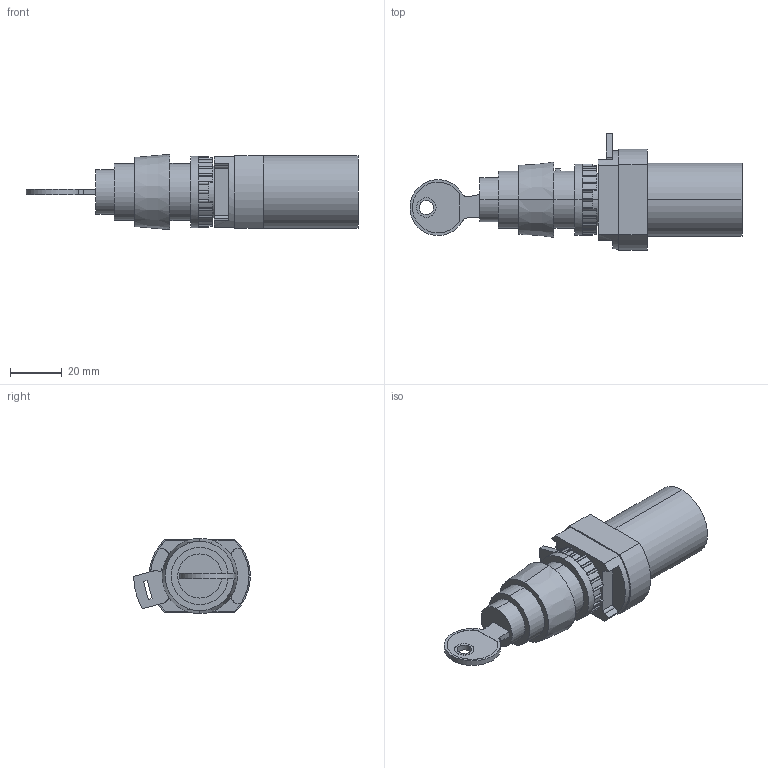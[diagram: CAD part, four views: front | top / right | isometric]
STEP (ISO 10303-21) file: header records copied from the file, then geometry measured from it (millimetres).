
FILE_DESCRIPTION (( 'STEP AP203' ), '1' );
FILE_NAME ('18-T-23-014_T-30-510-Airtec.step', '2006-10-31T13:16:23', ( 'Gustaf Hederström' ), ( 'Cevican AB' ), 'SwSTEP 2.0', 'SolidWorks 2002308', '' );
FILE_SCHEMA (( 'CONFIG_CONTROL_DESIGN' ));
Length unit declared in the file: millimetre
Products named in the file (3): 18-T-23-014_T-30-510-Airtec; 18-T-23-014-Airtec; T-30-510-Airtec
Assembly tree (2 placements, depth 2):
  18-T-23-014_T-30-510-Airtec
    18-T-23-014-Airtec
    T-30-510-Airtec
Bounding box: 127.97 x 45 x 29 mm (x, y, z)
Volume: 58221.3 mm3; surface area: 16087.7 mm2
Topology: 2 solids, 2 shells, 406 faces, 1103 edges, 716 vertices
Faces by surface type: plane 218, cylinder 174, cone 14
Entity records: 13130 total; most frequent: DIRECTION 2339, CARTESIAN_POINT 2220, ORIENTED_EDGE 2186, EDGE_CURVE 1093, AXIS2_PLACEMENT_3D 835, VERTEX_POINT 716, LINE 669, VECTOR 669
